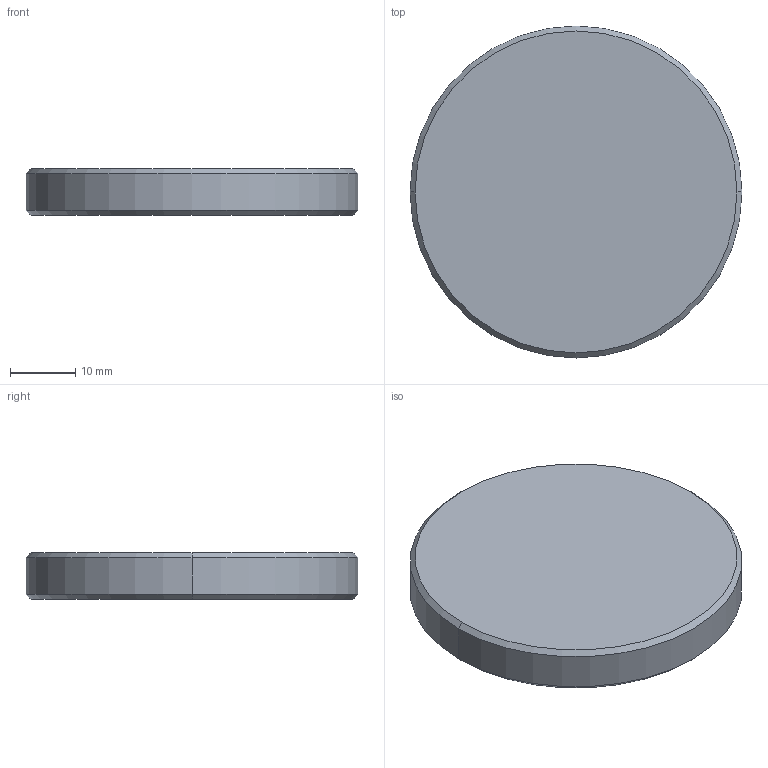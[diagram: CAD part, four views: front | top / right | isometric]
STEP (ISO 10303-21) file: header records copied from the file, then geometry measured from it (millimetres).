
FILE_DESCRIPTION((''),'2;1');
FILE_NAME('RMC-3002','2007-09-27T',('glafferty'),('Pleasant Precision, Inc. (419)675-0556'),'PRO/ENGINEER BY PARAMETRIC TECHNOLOGY CORPORATION, 2006080','PRO/ENGINEER BY PARAMETRIC TECHNOLOGY CORPORATION, 2006080','');
FILE_SCHEMA(('CONFIG_CONTROL_DESIGN'));
Length unit declared in the file: inch
Products named in the file (1): RMC-3002
Bounding box: 50.8 x 50.8 x 7.14 mm (x, y, z)
Volume: 14374.6 mm3; surface area: 5048.8 mm2
Topology: 1 solids, 1 shells, 8 faces, 14 edges, 8 vertices
Faces by surface type: cone 4, plane 2, cylinder 2
Entity records: 234 total; most frequent: DIRECTION 38, CARTESIAN_POINT 30, ORIENTED_EDGE 28, AXIS2_PLACEMENT_3D 16, EDGE_CURVE 14, VERTEX_POINT 8, EDGE_LOOP 8, FACE_OUTER_BOUND 8
